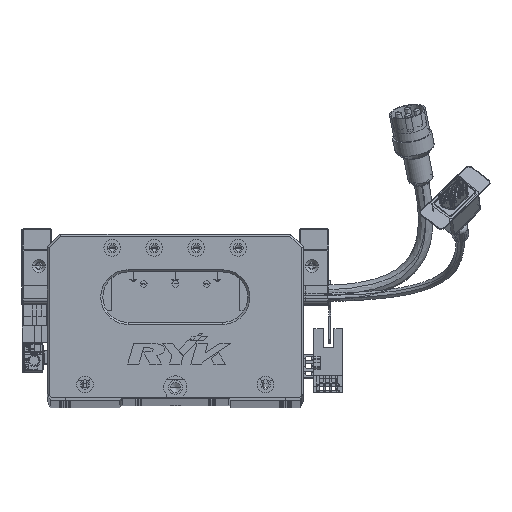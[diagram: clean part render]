
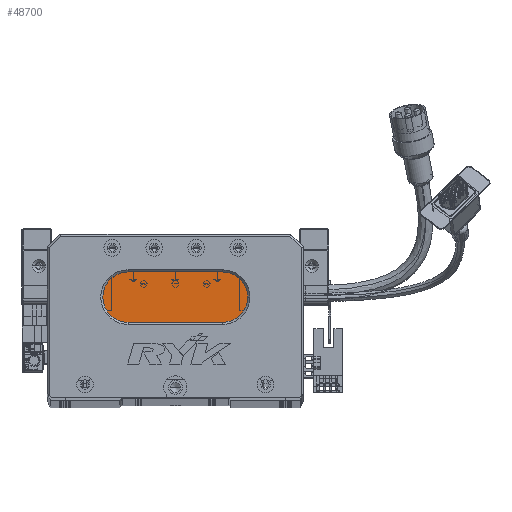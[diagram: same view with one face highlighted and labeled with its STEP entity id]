
A CAD part, top view. The second image highlights one B-rep face of the part: STEP entity #48700.
In plain terms, the highlighted planar face has unit normal (0, 0, 1) as drawn and (0, 0, -1) by its records, which use the part's own axes.
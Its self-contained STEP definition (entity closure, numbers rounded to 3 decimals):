
#4719 = VECTOR ( 'NONE', #8045, 1000. ) ;
#4771 = AXIS2_PLACEMENT_3D ( 'NONE', #76186, #35817, #52707 ) ;
#7968 = ORIENTED_EDGE ( 'NONE', *, *, #86471, .T. ) ;
#8045 = DIRECTION ( 'NONE',  ( 1., 0., 0. ) ) ;
#13944 = ORIENTED_EDGE ( 'NONE', *, *, #105007, .T. ) ;
#15193 = PLANE ( 'NONE',  #84044 ) ;
#16303 = CARTESIAN_POINT ( 'NONE',  ( 26.5, 48., 13. ) ) ;
#29439 = AXIS2_PLACEMENT_3D ( 'NONE', #46153, #88683, #80590 ) ;
#29743 = ORIENTED_EDGE ( 'NONE', *, *, #51914, .T. ) ;
#32581 = ORIENTED_EDGE ( 'NONE', *, *, #74732, .T. ) ;
#32605 = CIRCLE ( 'NONE', #33305, 12. ) ;
#32740 = FACE_OUTER_BOUND ( 'NONE', #107014, .T. ) ;
#33305 = AXIS2_PLACEMENT_3D ( 'NONE', #82520, #108552, #40723 ) ;
#35817 = DIRECTION ( 'NONE',  ( 0., 0., -1. ) ) ;
#36006 = VERTEX_POINT ( 'NONE', #84797 ) ;
#38036 = CARTESIAN_POINT ( 'NONE',  ( 83.5, 60., 13. ) ) ;
#40418 = DIRECTION ( 'NONE',  ( -1., 0., 0. ) ) ;
#40723 = DIRECTION ( 'NONE',  ( -1., 0., 0. ) ) ;
#42946 = VERTEX_POINT ( 'NONE', #69314 ) ;
#43700 = CARTESIAN_POINT ( 'NONE',  ( 38.5, 36., 13. ) ) ;
#43767 = VERTEX_POINT ( 'NONE', #16303 ) ;
#46153 = CARTESIAN_POINT ( 'NONE',  ( 38.5, 48., 13. ) ) ;
#46986 = ORIENTED_EDGE ( 'NONE', *, *, #100298, .T. ) ;
#48700 = ADVANCED_FACE ( 'NONE', ( #32740 ), #15193, .T. ) ;
#51914 = EDGE_CURVE ( 'NONE', #36006, #42946, #83339, .T. ) ;
#52707 = DIRECTION ( 'NONE',  ( -1., 0., 0. ) ) ;
#55655 = VECTOR ( 'NONE', #95362, 1000. ) ;
#63439 = VERTEX_POINT ( 'NONE', #100062 ) ;
#69314 = CARTESIAN_POINT ( 'NONE',  ( 83.5, 60., 13. ) ) ;
#73811 = CARTESIAN_POINT ( 'NONE',  ( 83.5, 48., 13. ) ) ;
#74732 = EDGE_CURVE ( 'NONE', #42946, #63439, #92285, .T. ) ;
#76186 = CARTESIAN_POINT ( 'NONE',  ( 83.5, 48., 13. ) ) ;
#77937 = LINE ( 'NONE', #104496, #55655 ) ;
#80590 = DIRECTION ( 'NONE',  ( -1., 0., 0. ) ) ;
#81858 = DIRECTION ( 'NONE',  ( 0., 0., -1. ) ) ;
#82520 = CARTESIAN_POINT ( 'NONE',  ( 38.5, 48., 13. ) ) ;
#83339 = LINE ( 'NONE', #38036, #4719 ) ;
#84044 = AXIS2_PLACEMENT_3D ( 'NONE', #73811, #81858, #40418 ) ;
#84797 = CARTESIAN_POINT ( 'NONE',  ( 38.5, 60., 13. ) ) ;
#86471 = EDGE_CURVE ( 'NONE', #96113, #43767, #104132, .T. ) ;
#88683 = DIRECTION ( 'NONE',  ( 0., 0., -1. ) ) ;
#92285 = CIRCLE ( 'NONE', #4771, 12. ) ;
#95362 = DIRECTION ( 'NONE',  ( -1., 0., 0. ) ) ;
#96113 = VERTEX_POINT ( 'NONE', #43700 ) ;
#100062 = CARTESIAN_POINT ( 'NONE',  ( 83.5, 36., 13. ) ) ;
#100298 = EDGE_CURVE ( 'NONE', #63439, #96113, #77937, .T. ) ;
#104132 = CIRCLE ( 'NONE', #29439, 12. ) ;
#104496 = CARTESIAN_POINT ( 'NONE',  ( 83.5, 36., 13. ) ) ;
#105007 = EDGE_CURVE ( 'NONE', #43767, #36006, #32605, .T. ) ;
#107014 = EDGE_LOOP ( 'NONE', ( #32581, #46986, #7968, #13944, #29743 ) ) ;
#108552 = DIRECTION ( 'NONE',  ( 0., 0., -1. ) ) ;
